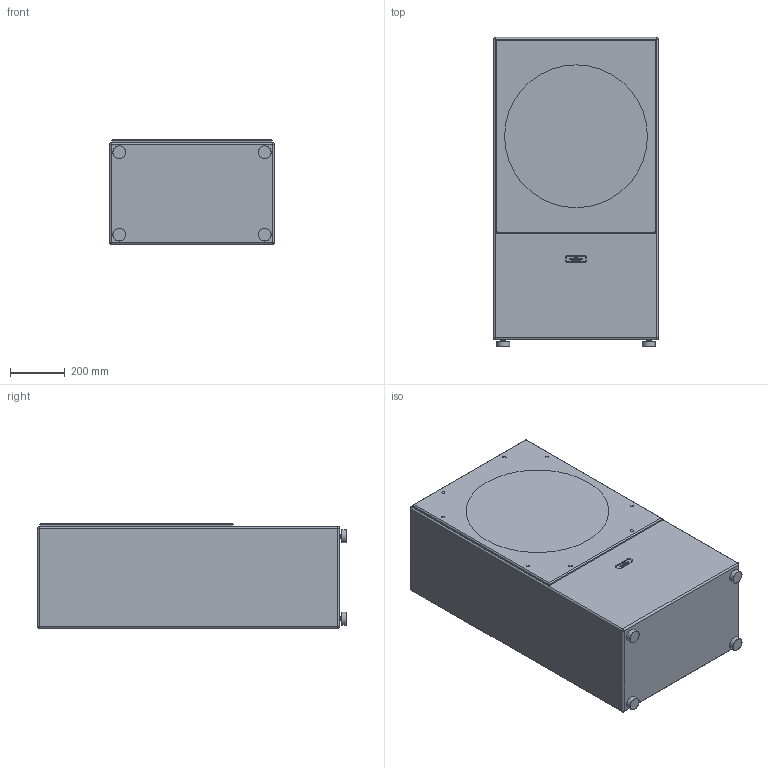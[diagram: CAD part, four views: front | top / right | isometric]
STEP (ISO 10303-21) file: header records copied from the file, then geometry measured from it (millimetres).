
FILE_DESCRIPTION(/* description */ ('','CAx-IF Rec.Pracs.---Representation and Presentation of Product Manufacturing Information (PMI)---4.0---2014-10-13'),/* implementation_level */ '2;1');
FILE_NAME(/* name */ '3D_THE21 SUB PRO PASSIVE SEALED_Public_SI.step',/* time_stamp */ '2025-01-29T18:20:36+01:00',/* author */ (''),/* organization */ (''),/* preprocessor_version */ 'ST-DEVELOPER v20',/* originating_system */ 'Autodesk Translation Framework v13.20.0.188',/* authorisation */ '');
FILE_SCHEMA (('AP242_MANAGED_MODEL_BASED_3D_ENGINEERING_MIM_LF { 1 0 10303 442 1 1 4 }'));
Products named in the file (3): The21 SUB PRO SEALED_COMBINE; COMBINE_GrilleFrame_Cloth; COMBINE_FullSpeaker
Assembly tree (2 placements, depth 2):
  The21 SUB PRO SEALED_COMBINE
    COMBINE_GrilleFrame_Cloth
    COMBINE_FullSpeaker
Bounding box: 600 x 1125 x 380.2 mm (x, y, z)
Volume: 223977961.6 mm3; surface area: 4141939.3 mm2
Topology: 12 solids, 50 shells, 2691 faces, 7044 edges, 4607 vertices
Faces by surface type: plane 1326, cylinder 528, bspline 511, cone 156, torus 149, sphere 21
Full cylindrical faces by diameter (mm): 1.2 x3, 3 x10, 3.2 x2, 3.5 x4, 4 x12, 4.5 x6, 5 x1, 5.5 x6, 6 x8, 6.701 x4, 8 x8, 12 x32, 12.4 x6, 12.5 x6, 13 x8, 14 x4, 14.9 x1, 17.6 x1, 21 x1, 23.6 x3, 24 x2, 24.25 x1, 25.9 x1, 26.5 x1, 47 x4, 166 x1, 497 x1, 512 x1, 548 x1
Entity records: 90759 total; most frequent: CARTESIAN_POINT 24363, ORIENTED_EDGE 14162, DIRECTION 12779, EDGE_CURVE 7081, VERTEX_POINT 4608, AXIS2_PLACEMENT_3D 4329, LINE 4121, VECTOR 4121
